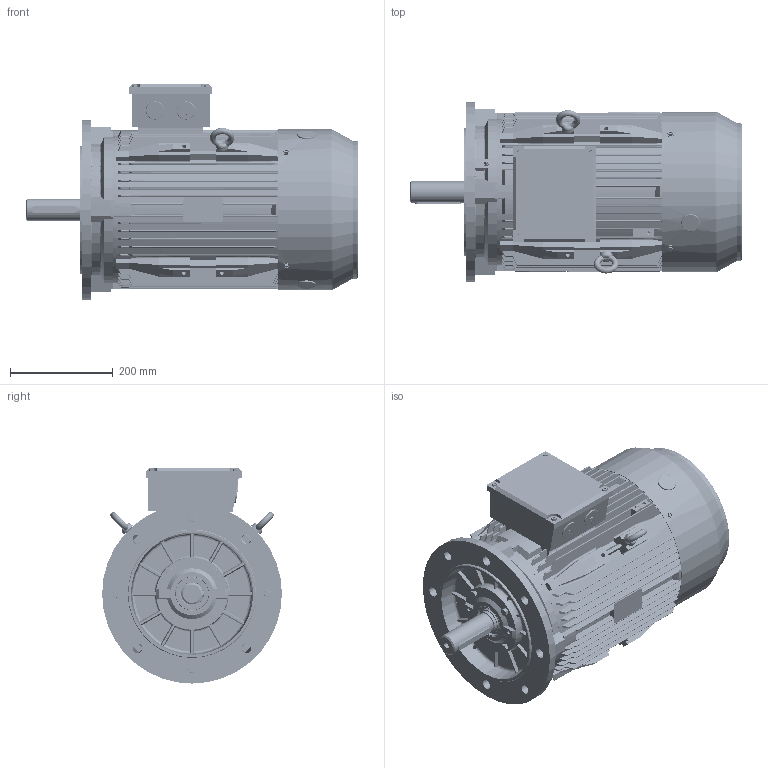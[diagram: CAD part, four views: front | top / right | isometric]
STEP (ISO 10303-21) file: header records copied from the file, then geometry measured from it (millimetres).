
FILE_DESCRIPTION (( 'STEP AP203' ), '1' );
FILE_NAME ('TC 160L B5 外形图.STEP', '2012-12-12T08:58:59', ( '微软用户' ), ( '微软中国' ), 'SwSTEP 2.0', 'SolidWorks 2008', '' );
FILE_SCHEMA (( 'CONFIG_CONTROL_DESIGN' ));
Products named in the file (25): TC 160 轴承外盖NDE_默认; TC 160 轴承内盖_默认; 油封45-65-8_默认; IE2 160风叶_默认; 扣塞_默认; 螺塞M32_默认; 吊环M10_默认; M6-10_默认; TC 160 B5 端盖_默认; TC 160L B5 俋倛芞; TC 160L 机座_默认; TC 160 B3 端盖_默认; TC 160L转子_默认; TC 160L 轴_默认; 6309_默认; TC 160 轴承外盖DE_默认; TC 160 风罩_默认; TC 160-180接线盒座_默认; TC 160-180接线盒盖_默认; 铜油嘴_默认; M8-30_默认; M8-60_默认; 8_默认; M6-20_默认; 平键12-8-90_默认
Assembly tree (50 placements, depth 3):
  TC 160L B5 俋倛芞
    铜油嘴_默认  x2
    M6-20_默认  x4
    8_默认  x8
    M6-10_默认  x4
    TC 160 轴承外盖DE_默认
    TC 160 风罩_默认
    TC 160-180接线盒盖_默认
    TC 160 B5 端盖_默认
    TC 160-180接线盒座_默认
    TC 160 轴承内盖_默认  x2
    TC 160L转子_默认
      6309_默认  x2
      TC 160L 轴_默认
    螺塞M32_默认  x2
    M8-30_默认  x4
    吊环M10_默认  x2
    TC 160 轴承外盖NDE_默认
    M8-60_默认  x4
    油封45-65-8_默认  x2
    平键12-8-90_默认
    TC 160L 机座_默认
    TC 160 B3 端盖_默认
    扣塞_默认  x2
    IE2 160风叶_默认
Bounding box: 646.5 x 350 x 419 mm (x, y, z)
Volume: 9470283.8 mm3; surface area: 2868833.8 mm2
Topology: 51 solids, 52 shells, 6768 faces, 19358 edges, 12695 vertices
Faces by surface type: plane 3214, cylinder 2514, cone 458, torus 414, bspline 116, sphere 52
Entity records: 215829 total; most frequent: CARTESIAN_POINT 54571, ORIENTED_EDGE 33908, DIRECTION 32226, EDGE_CURVE 16954, AXIS2_PLACEMENT_3D 11325, VERTEX_POINT 11177, VECTOR 9576, LINE 9576
